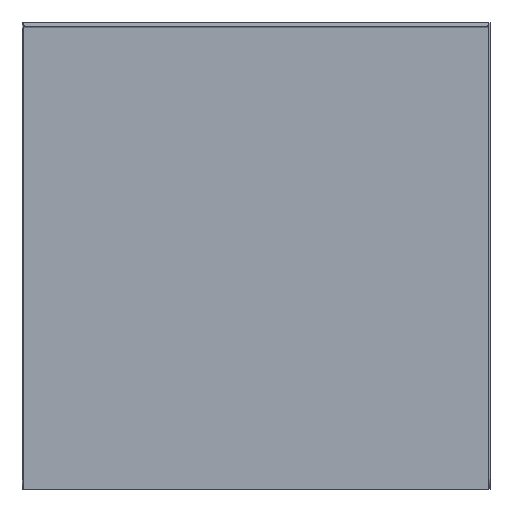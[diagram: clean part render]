
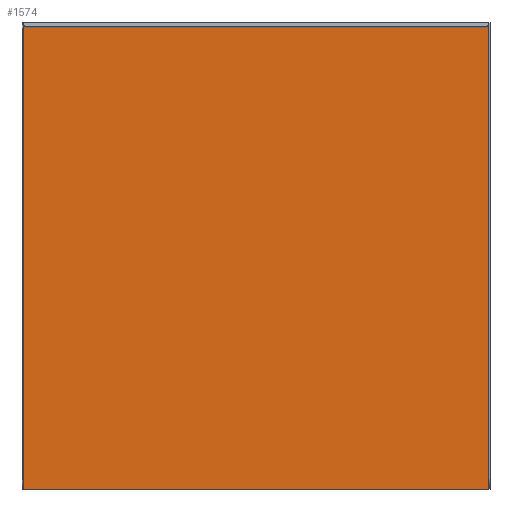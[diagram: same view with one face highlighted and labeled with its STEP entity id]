
A CAD part, front view. The second image highlights one B-rep face of the part: STEP entity #1574.
In plain terms, the highlighted planar face has unit normal (0, -1, 0).
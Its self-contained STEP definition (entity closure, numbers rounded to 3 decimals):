
#1 = FACE_OUTER_BOUND ( 'NONE', #70, .T. ) ;
#19 = DIRECTION ( 'NONE',  ( 0., -1., 0. ) ) ;
#26 = ORIENTED_EDGE ( 'NONE', *, *, #1474, .F. ) ;
#35 = CARTESIAN_POINT ( 'NONE',  ( 497., -15., -497. ) ) ;
#70 = EDGE_LOOP ( 'NONE', ( #677, #26, #804, #1335 ) ) ;
#79 = EDGE_CURVE ( 'NONE', #779, #369, #530, .T. ) ;
#168 = PLANE ( 'NONE',  #549 ) ;
#272 = LINE ( 'NONE', #558, #981 ) ;
#369 = VERTEX_POINT ( 'NONE', #35 ) ;
#377 = CARTESIAN_POINT ( 'NONE',  ( 497., -15., 497. ) ) ;
#516 = DIRECTION ( 'NONE',  ( -1., 0., 0. ) ) ;
#520 = VECTOR ( 'NONE', #1563, 1000. ) ;
#530 = LINE ( 'NONE', #377, #1150 ) ;
#549 = AXIS2_PLACEMENT_3D ( 'NONE', #1320, #19, #1748 ) ;
#558 = CARTESIAN_POINT ( 'NONE',  ( -497., -15., 497. ) ) ;
#625 = CARTESIAN_POINT ( 'NONE',  ( -497., -15., -497. ) ) ;
#677 = ORIENTED_EDGE ( 'NONE', *, *, #79, .F. ) ;
#727 = DIRECTION ( 'NONE',  ( 0., 0., 1. ) ) ;
#775 = CARTESIAN_POINT ( 'NONE',  ( -497., -15., -497. ) ) ;
#779 = VERTEX_POINT ( 'NONE', #1789 ) ;
#796 = LINE ( 'NONE', #625, #1427 ) ;
#804 = ORIENTED_EDGE ( 'NONE', *, *, #1719, .F. ) ;
#867 = VERTEX_POINT ( 'NONE', #775 ) ;
#886 = EDGE_CURVE ( 'NONE', #369, #867, #796, .T. ) ;
#981 = VECTOR ( 'NONE', #727, 1000. ) ;
#1102 = DIRECTION ( 'NONE',  ( 0., 0., -1. ) ) ;
#1150 = VECTOR ( 'NONE', #1102, 1000. ) ;
#1269 = VERTEX_POINT ( 'NONE', #1383 ) ;
#1279 = LINE ( 'NONE', #1393, #520 ) ;
#1320 = CARTESIAN_POINT ( 'NONE',  ( 0., -15., 0. ) ) ;
#1335 = ORIENTED_EDGE ( 'NONE', *, *, #886, .F. ) ;
#1383 = CARTESIAN_POINT ( 'NONE',  ( -497., -15., 497. ) ) ;
#1393 = CARTESIAN_POINT ( 'NONE',  ( -497., -15., 497. ) ) ;
#1427 = VECTOR ( 'NONE', #516, 1000. ) ;
#1474 = EDGE_CURVE ( 'NONE', #1269, #779, #1279, .T. ) ;
#1563 = DIRECTION ( 'NONE',  ( 1., 0., 0. ) ) ;
#1574 = ADVANCED_FACE ( 'NONE', ( #1 ), #168, .T. ) ;
#1719 = EDGE_CURVE ( 'NONE', #867, #1269, #272, .T. ) ;
#1748 = DIRECTION ( 'NONE',  ( 0., 0., -1. ) ) ;
#1789 = CARTESIAN_POINT ( 'NONE',  ( 497., -15., 497. ) ) ;
